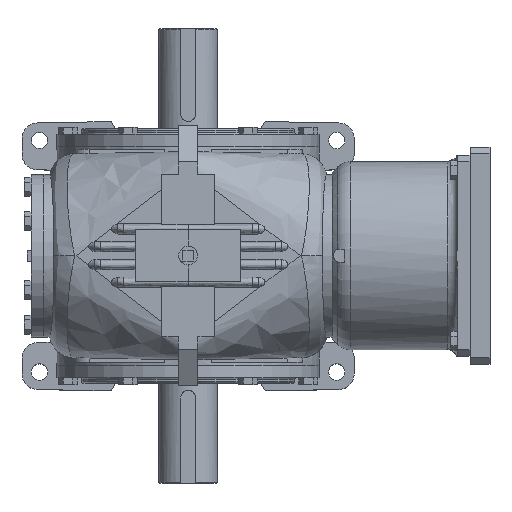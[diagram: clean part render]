
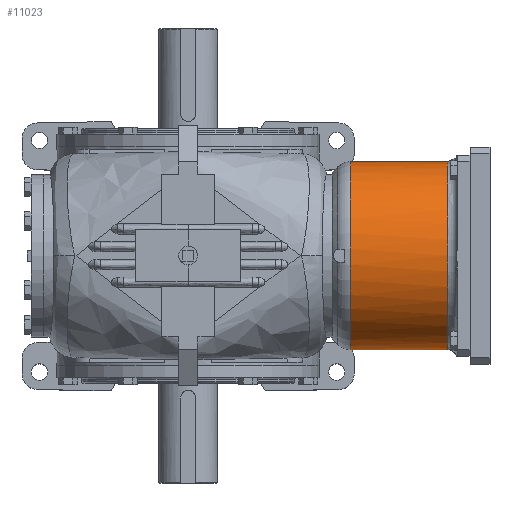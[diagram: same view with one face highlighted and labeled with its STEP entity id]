
A CAD part, top view. The second image highlights one B-rep face of the part: STEP entity #11023.
In plain terms, the highlighted cylindrical face has radius 136.525 mm (diameter 273.05 mm), a partial arc.
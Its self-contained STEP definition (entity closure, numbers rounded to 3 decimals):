
#307=CYLINDRICAL_SURFACE('',#13392,136.525);
#721=B_SPLINE_CURVE_WITH_KNOTS('',3,(#35130,#35131,#35132,#35133,#35134),
 .UNSPECIFIED.,.F.,.F.,(4,1,4),(0.,0.007,
0.015),.UNSPECIFIED.);
#722=B_SPLINE_CURVE_WITH_KNOTS('',3,(#35136,#35137,#35138,#35139,#35140),
 .UNSPECIFIED.,.F.,.F.,(4,1,4),(0.,0.007,
0.015),.UNSPECIFIED.);
#723=B_SPLINE_CURVE_WITH_KNOTS('',3,(#35144,#35145,#35146,#35147),
 .UNSPECIFIED.,.F.,.F.,(4,4),(0.064,0.069),
 .UNSPECIFIED.);
#724=B_SPLINE_CURVE_WITH_KNOTS('',3,(#35151,#35152,#35153,#35154),
 .UNSPECIFIED.,.F.,.F.,(4,4),(0.,0.006),.UNSPECIFIED.);
#1517=LINE('',#35142,#2326);
#1518=LINE('',#35156,#2327);
#2326=VECTOR('',#15666,1000.);
#2327=VECTOR('',#15669,1000.);
#5156=ORIENTED_EDGE('',*,*,#6961,.F.);
#5157=ORIENTED_EDGE('',*,*,#6955,.F.);
#5158=ORIENTED_EDGE('',*,*,#6962,.F.);
#5159=ORIENTED_EDGE('',*,*,#6963,.F.);
#5160=ORIENTED_EDGE('',*,*,#6964,.T.);
#5161=ORIENTED_EDGE('',*,*,#6965,.T.);
#5162=ORIENTED_EDGE('',*,*,#6966,.T.);
#5163=ORIENTED_EDGE('',*,*,#6967,.F.);
#6955=EDGE_CURVE('',#8103,#8104,#8399,.T.);
#6961=EDGE_CURVE('',#8104,#8109,#721,.T.);
#6962=EDGE_CURVE('',#8110,#8103,#722,.T.);
#6963=EDGE_CURVE('',#8111,#8110,#1517,.T.);
#6964=EDGE_CURVE('',#8111,#8112,#723,.T.);
#6965=EDGE_CURVE('',#8112,#8113,#8402,.F.);
#6966=EDGE_CURVE('',#8113,#8114,#724,.T.);
#6967=EDGE_CURVE('',#8109,#8114,#1518,.F.);
#8103=VERTEX_POINT('',#35102);
#8104=VERTEX_POINT('',#35103);
#8109=VERTEX_POINT('',#35135);
#8110=VERTEX_POINT('',#35141);
#8111=VERTEX_POINT('',#35143);
#8112=VERTEX_POINT('',#35148);
#8113=VERTEX_POINT('',#35150);
#8114=VERTEX_POINT('',#35155);
#8399=CIRCLE('',#13388,136.525);
#8402=CIRCLE('',#13393,136.525);
#9128=EDGE_LOOP('',(#5156,#5157,#5158,#5159,#5160,#5161,#5162,#5163));
#9947=FACE_BOUND('',#9128,.T.);
#11023=ADVANCED_FACE('',(#9947),#307,.T.);
#13388=AXIS2_PLACEMENT_3D('',#35101,#15654,#15655);
#13392=AXIS2_PLACEMENT_3D('',#35129,#15664,#15665);
#13393=AXIS2_PLACEMENT_3D('',#35149,#15667,#15668);
#15654=DIRECTION('',(-1.,0.,0.));
#15655=DIRECTION('',(0.,0.,1.));
#15664=DIRECTION('',(-1.,0.,0.));
#15665=DIRECTION('',(0.,0.,1.));
#15666=DIRECTION('',(-1.,0.,0.));
#15667=DIRECTION('',(1.,0.,0.));
#15668=DIRECTION('',(0.,0.,-1.));
#15669=DIRECTION('',(-1.,0.,0.));
#35101=CARTESIAN_POINT('',(25.69,0.,0.));
#35102=CARTESIAN_POINT('',(25.69,-24.927,-134.23));
#35103=CARTESIAN_POINT('',(25.69,24.927,-134.23));
#35129=CARTESIAN_POINT('',(-60.008,0.,0.));
#35130=CARTESIAN_POINT('',(25.69,24.927,-134.23));
#35131=CARTESIAN_POINT('',(27.821,26.122,-134.008));
#35132=CARTESIAN_POINT('',(32.302,27.93,-133.641));
#35133=CARTESIAN_POINT('',(37.205,28.575,-133.501));
#35134=CARTESIAN_POINT('',(39.66,28.575,-133.501));
#35135=CARTESIAN_POINT('',(39.66,28.575,-133.501));
#35136=CARTESIAN_POINT('',(39.66,-28.575,-133.501));
#35137=CARTESIAN_POINT('',(37.205,-28.575,-133.501));
#35138=CARTESIAN_POINT('',(32.402,-27.956,-133.636));
#35139=CARTESIAN_POINT('',(27.822,-26.122,-134.008));
#35140=CARTESIAN_POINT('',(25.69,-24.927,-134.23));
#35141=CARTESIAN_POINT('',(39.66,-28.575,-133.501));
#35142=CARTESIAN_POINT('',(-60.008,-28.575,-133.501));
#35143=CARTESIAN_POINT('',(167.52,-28.575,-133.501));
#35144=CARTESIAN_POINT('',(167.52,-28.575,-133.501));
#35145=CARTESIAN_POINT('',(167.477,-30.402,-133.11));
#35146=CARTESIAN_POINT('',(167.45,-32.223,-132.681));
#35147=CARTESIAN_POINT('',(167.45,-34.038,-132.214));
#35148=CARTESIAN_POINT('',(167.45,-34.038,-132.214));
#35149=CARTESIAN_POINT('',(167.45,0.,0.));
#35150=CARTESIAN_POINT('',(167.45,34.038,-132.214));
#35151=CARTESIAN_POINT('',(167.45,34.038,-132.214));
#35152=CARTESIAN_POINT('',(167.45,32.226,-132.68));
#35153=CARTESIAN_POINT('',(167.477,30.403,-133.11));
#35154=CARTESIAN_POINT('',(167.52,28.575,-133.501));
#35155=CARTESIAN_POINT('',(167.52,28.575,-133.501));
#35156=CARTESIAN_POINT('',(-60.008,28.575,-133.501));
